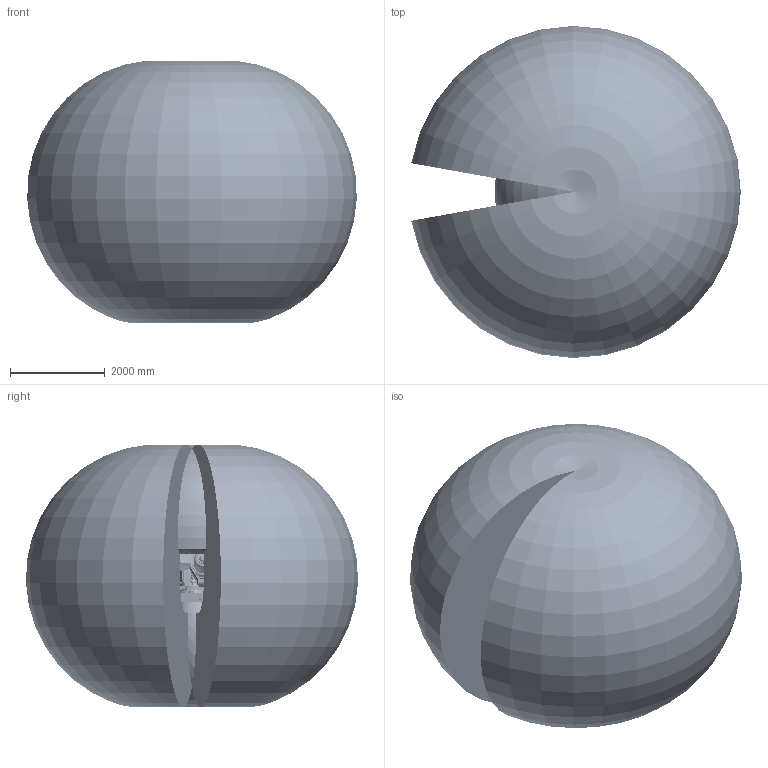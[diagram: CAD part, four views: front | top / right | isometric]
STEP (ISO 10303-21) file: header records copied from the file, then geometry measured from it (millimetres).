
FILE_DESCRIPTION (( 'STEP AP214' ), '1' );
FILE_NAME ('IRB6730S_210kg-350_OC_01_ASM_CAD.step', '2026-05-26T10:32:19', ( '' ), ( '' ), 'SwSTEP 2.0', 'SolidWorks 2024', '' );
FILE_SCHEMA (( 'AUTOMOTIVE_DESIGN' ));
Length unit declared in the file: millimetre
Products named in the file (14): IRB6730S_210kg-350_OC_00_Working-envelope; IRB6730S_All_OC_00_LINK01_CAD; IRB6730S_All_OC_00_LINK03_CAD; IRB6730S_210kg-350_OC_00_LINK06_CAD; IRB6730S_All_OC_00_BASE_CAD; IRB6730S_All_OC_00_ROD_CAD; IRB6730S_All_OC_00_LINK02_CAD; IRB6730S_All-350_OC_01_LINK05_CAD; IRB6730S_All_OC_00_CYL_CAD; IRB6730S-ALL-OC_00_LINK02m_CABLE; IRB6730S_All-350_OC_00_LINK04_CAD; IRB6730S-ALL-OC_00_LINK01m_CABLE; IRB6730S-ALL-OC_00_LINK03m_CABLE; IRB6730S_210kg-350_OC_01_ASM_CAD
Assembly tree (13 placements, depth 2):
  IRB6730S_210kg-350_OC_01_ASM_CAD
    IRB6730S_All_OC_00_BASE_CAD
    IRB6730S_All_OC_00_CYL_CAD
    IRB6730S_All_OC_00_LINK01_CAD
    IRB6730S_All_OC_00_LINK02_CAD
    IRB6730S_All_OC_00_LINK03_CAD
    IRB6730S_All_OC_00_ROD_CAD
    IRB6730S_All-350_OC_00_LINK04_CAD
    IRB6730S_All-350_OC_01_LINK05_CAD
    IRB6730S_210kg-350_OC_00_LINK06_CAD
    IRB6730S-ALL-OC_00_LINK01m_CABLE
    IRB6730S-ALL-OC_00_LINK02m_CABLE
    IRB6730S-ALL-OC_00_LINK03m_CABLE
    IRB6730S_210kg-350_OC_00_Working-envelope
Bounding box: 6952.42 x 7005.17 x 5547.47 mm (x, y, z)
Volume: 138289276090.6 mm3; surface area: 199022090 mm2
Topology: 18 solids, 25 shells, 8224 faces, 21190 edges, 13506 vertices
Faces by surface type: plane 3644, cylinder 2065, cone 1482, bspline 781, torus 239, sphere 13
Entity records: 458439 total; most frequent: CARTESIAN_POINT 205634, ORIENTED_EDGE 41858, DIRECTION 37412, EDGE_CURVE 20929, AXIS2_PLACEMENT_3D 13909, VERTEX_POINT 13506, VECTOR 9594, LINE 9594
